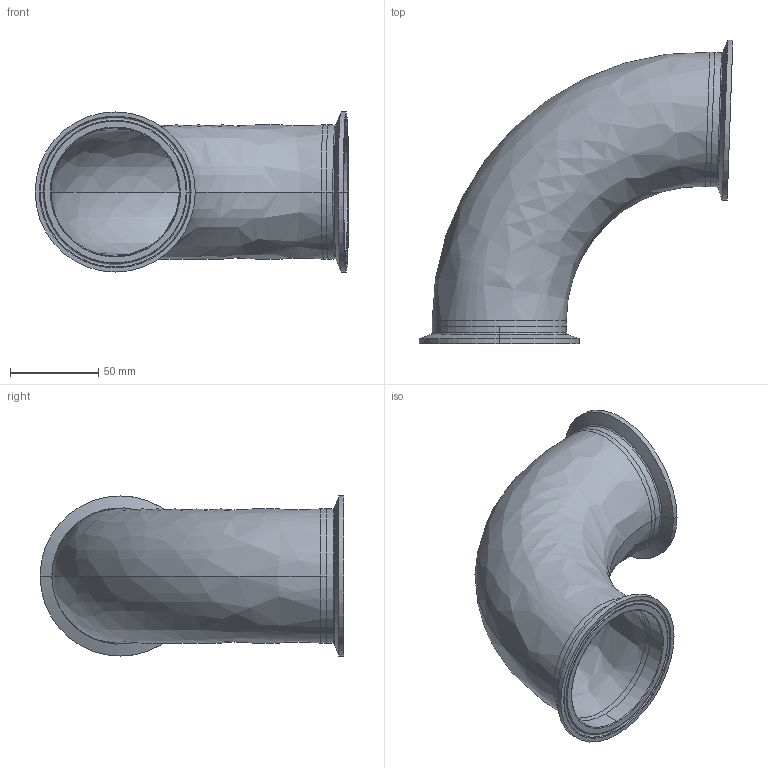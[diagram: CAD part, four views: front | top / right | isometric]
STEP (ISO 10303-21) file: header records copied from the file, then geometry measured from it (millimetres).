
FILE_DESCRIPTION (( 'STEP AP214' ), '1' );
FILE_NAME ('TEG2C926L3.0-...STEP', '2016-05-22T11:38:04', ( 'eran' ), ( '' ), 'SwSTEP 2.0', 'SolidWorks 2016', '' );
FILE_SCHEMA (( 'AUTOMOTIVE_DESIGN' ));
Length unit declared in the file: millimetre
Products named in the file (1): TEG2C926L3.0-..
Bounding box: 178.1 x 172.52 x 90.91 mm (x, y, z)
Volume: 96305.6 mm3; surface area: 107546.4 mm2
Topology: 3 solids, 3 shells, 64 faces, 156 edges, 100 vertices
Faces by surface type: bspline 24, cylinder 20, cone 12, plane 8
Entity records: 3295 total; most frequent: CARTESIAN_POINT 1739, DIRECTION 338, ORIENTED_EDGE 312, EDGE_CURVE 156, AXIS2_PLACEMENT_3D 153, CIRCLE 112, VERTEX_POINT 100, EDGE_LOOP 72
